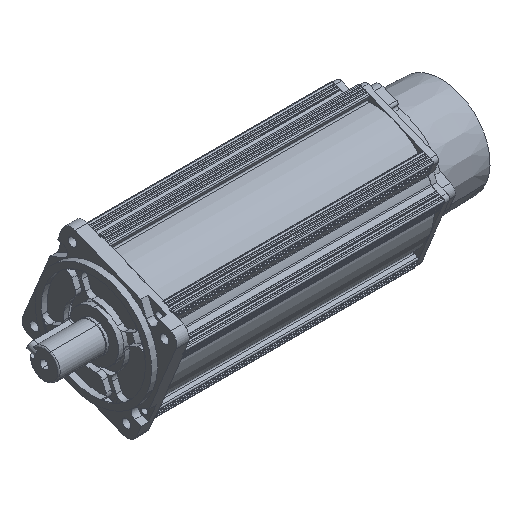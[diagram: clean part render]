
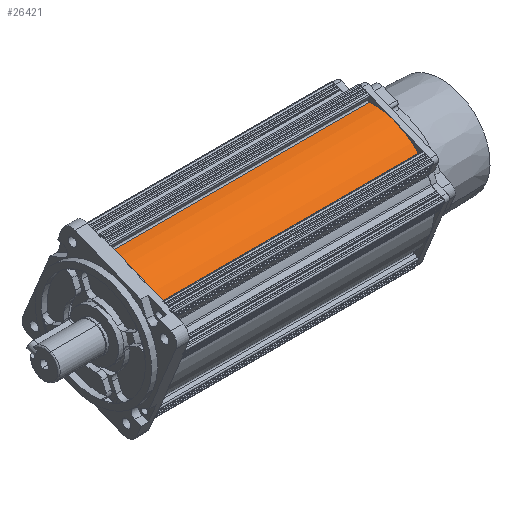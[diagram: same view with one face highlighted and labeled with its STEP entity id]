
A CAD part, isometric view. The second image highlights one B-rep face of the part: STEP entity #26421.
In plain terms, the highlighted cylindrical face has radius 50 mm (diameter 100 mm), a partial arc.
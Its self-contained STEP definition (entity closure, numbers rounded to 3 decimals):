
#9 = CIRCLE ( 'NONE', #20199, 50. ) ;
#71 = CARTESIAN_POINT ( 'NONE',  ( 118.968, -131.145, 48.883 ) ) ;
#114 = ORIENTED_EDGE ( 'NONE', *, *, #23046, .T. ) ;
#1048 = ORIENTED_EDGE ( 'NONE', *, *, #13540, .T. ) ;
#2142 = VECTOR ( 'NONE', #11558, 1000. ) ;
#2693 = CYLINDRICAL_SURFACE ( 'NONE', #20268, 50. ) ;
#3251 = CARTESIAN_POINT ( 'NONE',  ( 330.968, -128.437, 98.808 ) ) ;
#4852 = DIRECTION ( 'NONE',  ( -1., 0., 0. ) ) ;
#5197 = VERTEX_POINT ( 'NONE', #21185 ) ;
#6370 = DIRECTION ( 'NONE',  ( 0., 0.924, 0.382 ) ) ;
#6987 = CARTESIAN_POINT ( 'NONE',  ( 330.968, -131.148, 48.882 ) ) ;
#7557 = ORIENTED_EDGE ( 'NONE', *, *, #20977, .T. ) ;
#9003 = ORIENTED_EDGE ( 'NONE', *, *, #17383, .F. ) ;
#9671 = CARTESIAN_POINT ( 'NONE',  ( 330.967, -168.306, 82.338 ) ) ;
#9743 = VERTEX_POINT ( 'NONE', #20873 ) ;
#10953 = EDGE_LOOP ( 'NONE', ( #114, #1048, #9003, #7557 ) ) ;
#11558 = DIRECTION ( 'NONE',  ( -1., 0., 0. ) ) ;
#11591 = VECTOR ( 'NONE', #25702, 1000. ) ;
#12517 = DIRECTION ( 'NONE',  ( -1., 0., 0. ) ) ;
#13512 = LINE ( 'NONE', #9671, #11591 ) ;
#13540 = EDGE_CURVE ( 'NONE', #22965, #24538, #18535, .T. ) ;
#16329 = CARTESIAN_POINT ( 'NONE',  ( 118.968, -128.434, 98.809 ) ) ;
#17105 = DIRECTION ( 'NONE',  ( 0., 0.924, 0.382 ) ) ;
#17166 = AXIS2_PLACEMENT_3D ( 'NONE', #71, #12517, #6370 ) ;
#17383 = EDGE_CURVE ( 'NONE', #9743, #24538, #24882, .T. ) ;
#18535 = LINE ( 'NONE', #3251, #2142 ) ;
#20199 = AXIS2_PLACEMENT_3D ( 'NONE', #20529, #22481, #24524 ) ;
#20268 = AXIS2_PLACEMENT_3D ( 'NONE', #6987, #4852, #17105 ) ;
#20529 = CARTESIAN_POINT ( 'NONE',  ( 330.968, -131.148, 48.882 ) ) ;
#20873 = CARTESIAN_POINT ( 'NONE',  ( 118.967, -168.303, 82.339 ) ) ;
#20977 = EDGE_CURVE ( 'NONE', #9743, #5197, #13512, .T. ) ;
#21185 = CARTESIAN_POINT ( 'NONE',  ( 330.967, -168.306, 82.338 ) ) ;
#22481 = DIRECTION ( 'NONE',  ( -1., 0., 0. ) ) ;
#22882 = FACE_OUTER_BOUND ( 'NONE', #10953, .T. ) ;
#22965 = VERTEX_POINT ( 'NONE', #26235 ) ;
#23046 = EDGE_CURVE ( 'NONE', #5197, #22965, #9, .T. ) ;
#24524 = DIRECTION ( 'NONE',  ( 0., 0.924, 0.382 ) ) ;
#24538 = VERTEX_POINT ( 'NONE', #16329 ) ;
#24882 = CIRCLE ( 'NONE', #17166, 50. ) ;
#25702 = DIRECTION ( 'NONE',  ( 1., 0., 0. ) ) ;
#26235 = CARTESIAN_POINT ( 'NONE',  ( 330.968, -128.437, 98.808 ) ) ;
#26421 = ADVANCED_FACE ( 'NONE', ( #22882 ), #2693, .T. ) ;
